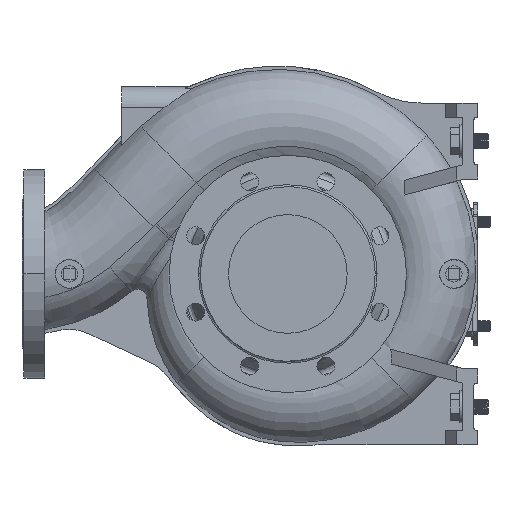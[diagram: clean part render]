
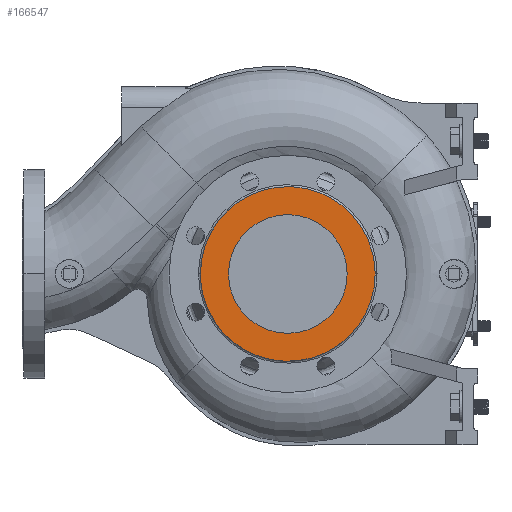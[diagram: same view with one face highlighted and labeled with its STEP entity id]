
A CAD part, left-side view. The second image highlights one B-rep face of the part: STEP entity #166547.
In plain terms, the highlighted planar face has unit normal (-1, 0, 0).
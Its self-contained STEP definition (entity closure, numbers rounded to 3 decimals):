
#4197 = CARTESIAN_POINT ( 'NONE',  ( -125., 0., 0. ) ) ;
#6265 = CARTESIAN_POINT ( 'NONE',  ( -125., 58.458, 71.231 ) ) ;
#7035 = PLANE ( 'NONE',  #27505 ) ;
#8086 = CARTESIAN_POINT ( 'NONE',  ( -125., -76.988, 51.442 ) ) ;
#12089 = CARTESIAN_POINT ( 'NONE',  ( -125., 74.163, -55.003 ) ) ;
#18171 = DIRECTION ( 'NONE',  ( -1., 0., 0. ) ) ;
#18385 = CARTESIAN_POINT ( 'NONE',  ( -125., 74.163, 55.003 ) ) ;
#20588 = CARTESIAN_POINT ( 'NONE',  ( -125., -35.434, -85.545 ) ) ;
#20923 = ORIENTED_EDGE ( 'NONE', *, *, #45750, .F. ) ;
#22925 = CARTESIAN_POINT ( 'NONE',  ( -125., -18.064, 90.814 ) ) ;
#23841 = EDGE_CURVE ( 'NONE', #155309, #39689, #109731, .T. ) ;
#27505 = AXIS2_PLACEMENT_3D ( 'NONE', #63743, #80444, #96217 ) ;
#32315 = CARTESIAN_POINT ( 'NONE',  ( -125., 88.18, 26.749 ) ) ;
#33293 = CARTESIAN_POINT ( 'NONE',  ( -125., -92., 0. ) ) ;
#34518 = CARTESIAN_POINT ( 'NONE',  ( -125., -92., -6.021 ) ) ;
#37781 = CARTESIAN_POINT ( 'NONE',  ( -125., 32.548, 86.419 ) ) ;
#38692 = CARTESIAN_POINT ( 'NONE',  ( -125., -35.434, 85.545 ) ) ;
#39689 = VERTEX_POINT ( 'NONE', #136543 ) ;
#39950 = CARTESIAN_POINT ( 'NONE',  ( -125., 91.704, -9.033 ) ) ;
#40878 = CARTESIAN_POINT ( 'NONE',  ( -125., 80.624, -44.798 ) ) ;
#42700 = CARTESIAN_POINT ( 'NONE',  ( -125., 90.377, -17.977 ) ) ;
#43272 = EDGE_LOOP ( 'NONE', ( #93065, #76376 ) ) ;
#45750 = EDGE_CURVE ( 'NONE', #96394, #165604, #92598, .T. ) ;
#46245 = CARTESIAN_POINT ( 'NONE',  ( -125., 92., 3.009 ) ) ;
#49373 = CARTESIAN_POINT ( 'NONE',  ( -125., 18.062, -90.815 ) ) ;
#49792 = FACE_OUTER_BOUND ( 'NONE', #172369, .T. ) ;
#51186 = CARTESIAN_POINT ( 'NONE',  ( -125., -90.814, -18.064 ) ) ;
#51703 = CARTESIAN_POINT ( 'NONE',  ( -125., -92., 6.021 ) ) ;
#56668 = CARTESIAN_POINT ( 'NONE',  ( -125., 66.273, -64.149 ) ) ;
#58921 = CARTESIAN_POINT ( 'NONE',  ( -125., 92., 0. ) ) ;
#61488 = DIRECTION ( 'NONE',  ( -1., 0., 0. ) ) ;
#63743 = CARTESIAN_POINT ( 'NONE',  ( -125., -93.104, 93.104 ) ) ;
#65699 = CARTESIAN_POINT ( 'NONE',  ( -125., -92., 0. ) ) ;
#76376 = ORIENTED_EDGE ( 'NONE', *, *, #23841, .F. ) ;
#77308 = CARTESIAN_POINT ( 'NONE',  ( -125., -18.064, -90.814 ) ) ;
#78748 = CARTESIAN_POINT ( 'NONE',  ( -125., 0.001, 92.593 ) ) ;
#79670 = CARTESIAN_POINT ( 'NONE',  ( -125., 43.438, 81.267 ) ) ;
#80444 = DIRECTION ( 'NONE',  ( 1., 0., 0. ) ) ;
#81186 = B_SPLINE_CURVE_WITH_KNOTS ( 'NONE', 3,
 ( #165611, #34518, #51186, #121022, #163819, #93986, #148043, #20588, #77308, #134069, #49373, #106158, #162906, #98571, #125560, #56668, #12089, #40878, #97659, #85526, #42700, #39950, #182291, #168346 ),
 .UNSPECIFIED., .F., .F.,
 ( 4, 1, 1, 1, 1, 1, 1, 1, 1, 1, 1, 1, 1, 1, 1, 1, 1, 1, 1, 1, 1, 4 ),
 ( 0., 0.018, 0.036, 0.054, 0.072, 0.091, 0.109, 0.127, 0.145, 0.163, 0.181, 0.19, 0.199, 0.208, 0.217, 0.231, 0.244, 0.254, 0.263, 0.272, 0.281, 0.29 ),
 .UNSPECIFIED. ) ;
#85526 = CARTESIAN_POINT ( 'NONE',  ( -125., 88.18, -26.749 ) ) ;
#89998 = CARTESIAN_POINT ( 'NONE',  ( -125., 85.133, 35.264 ) ) ;
#92402 = AXIS2_PLACEMENT_3D ( 'NONE', #149820, #61488, #105222 ) ;
#92598 = B_SPLINE_CURVE_WITH_KNOTS ( 'NONE', 3,
 ( #158841, #46245, #103038, #159787, #32315, #89998, #145860, #18385, #150387, #6265, #134596, #79670, #37781, #166153, #78748, #22925, #38692, #177411, #165241, #8086, #137331, #136420, #51703, #65699 ),
 .UNSPECIFIED., .F., .F.,
 ( 4, 1, 1, 1, 1, 1, 1, 1, 1, 1, 1, 1, 1, 1, 1, 1, 1, 1, 1, 1, 1, 4 ),
 ( 0., 0.009, 0.018, 0.027, 0.036, 0.045, 0.059, 0.073, 0.082, 0.091, 0.1, 0.109, 0.127, 0.145, 0.163, 0.181, 0.199, 0.218, 0.236, 0.254, 0.272, 0.29 ),
 .UNSPECIFIED. ) ;
#93065 = ORIENTED_EDGE ( 'NONE', *, *, #152234, .F. ) ;
#93986 = CARTESIAN_POINT ( 'NONE',  ( -125., -65.473, -65.473 ) ) ;
#96217 = DIRECTION ( 'NONE',  ( 0., 0., -1. ) ) ;
#96394 = VERTEX_POINT ( 'NONE', #58921 ) ;
#97659 = CARTESIAN_POINT ( 'NONE',  ( -125., 85.133, -35.264 ) ) ;
#98571 = CARTESIAN_POINT ( 'NONE',  ( -125., 51.195, -76.618 ) ) ;
#103038 = CARTESIAN_POINT ( 'NONE',  ( -125., 91.704, 9.033 ) ) ;
#105222 = DIRECTION ( 'NONE',  ( 0., 0., -1. ) ) ;
#106158 = CARTESIAN_POINT ( 'NONE',  ( -125., 32.548, -86.419 ) ) ;
#109731 = CIRCLE ( 'NONE', #163698, 62.5 ) ;
#121022 = CARTESIAN_POINT ( 'NONE',  ( -125., -85.545, -35.434 ) ) ;
#125329 = EDGE_CURVE ( 'NONE', #165604, #96394, #81186, .T. ) ;
#125560 = CARTESIAN_POINT ( 'NONE',  ( -125., 58.458, -71.231 ) ) ;
#134069 = CARTESIAN_POINT ( 'NONE',  ( -125., 0.001, -92.593 ) ) ;
#134596 = CARTESIAN_POINT ( 'NONE',  ( -125., 51.195, 76.618 ) ) ;
#136420 = CARTESIAN_POINT ( 'NONE',  ( -125., -90.814, 18.064 ) ) ;
#136543 = CARTESIAN_POINT ( 'NONE',  ( -125., 0., -62.5 ) ) ;
#137331 = CARTESIAN_POINT ( 'NONE',  ( -125., -85.545, 35.434 ) ) ;
#145860 = CARTESIAN_POINT ( 'NONE',  ( -125., 80.624, 44.798 ) ) ;
#148043 = CARTESIAN_POINT ( 'NONE',  ( -125., -51.442, -76.988 ) ) ;
#149820 = CARTESIAN_POINT ( 'NONE',  ( -125., 0., 0. ) ) ;
#150387 = CARTESIAN_POINT ( 'NONE',  ( -125., 66.273, 64.149 ) ) ;
#152234 = EDGE_CURVE ( 'NONE', #39689, #155309, #166590, .T. ) ;
#155309 = VERTEX_POINT ( 'NONE', #174992 ) ;
#158618 = DIRECTION ( 'NONE',  ( 0., 0., -1. ) ) ;
#158841 = CARTESIAN_POINT ( 'NONE',  ( -125., 92., 0. ) ) ;
#159787 = CARTESIAN_POINT ( 'NONE',  ( -125., 90.377, 17.977 ) ) ;
#162906 = CARTESIAN_POINT ( 'NONE',  ( -125., 43.438, -81.267 ) ) ;
#163698 = AXIS2_PLACEMENT_3D ( 'NONE', #4197, #18171, #158618 ) ;
#163819 = CARTESIAN_POINT ( 'NONE',  ( -125., -76.988, -51.442 ) ) ;
#165116 = FACE_BOUND ( 'NONE', #43272, .T. ) ;
#165241 = CARTESIAN_POINT ( 'NONE',  ( -125., -65.473, 65.473 ) ) ;
#165604 = VERTEX_POINT ( 'NONE', #33293 ) ;
#165611 = CARTESIAN_POINT ( 'NONE',  ( -125., -92., 0. ) ) ;
#166153 = CARTESIAN_POINT ( 'NONE',  ( -125., 18.062, 90.815 ) ) ;
#166547 = ADVANCED_FACE ( 'NONE', ( #165116, #49792 ), #7035, .F. ) ;
#166590 = CIRCLE ( 'NONE', #92402, 62.5 ) ;
#168346 = CARTESIAN_POINT ( 'NONE',  ( -125., 92., 0. ) ) ;
#172369 = EDGE_LOOP ( 'NONE', ( #175538, #20923 ) ) ;
#174992 = CARTESIAN_POINT ( 'NONE',  ( -125., 0., 62.5 ) ) ;
#175538 = ORIENTED_EDGE ( 'NONE', *, *, #125329, .F. ) ;
#177411 = CARTESIAN_POINT ( 'NONE',  ( -125., -51.442, 76.988 ) ) ;
#182291 = CARTESIAN_POINT ( 'NONE',  ( -125., 92., -3.009 ) ) ;
